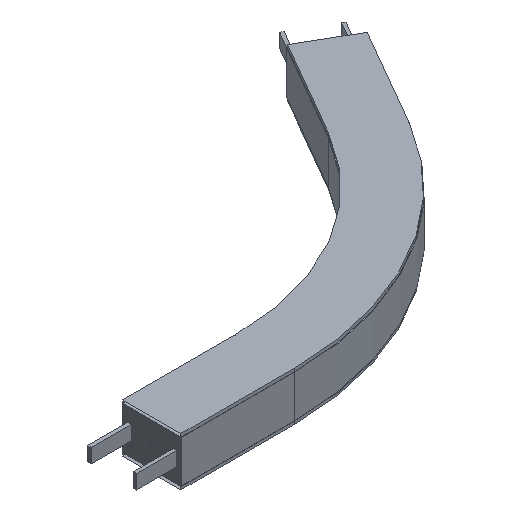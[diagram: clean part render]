
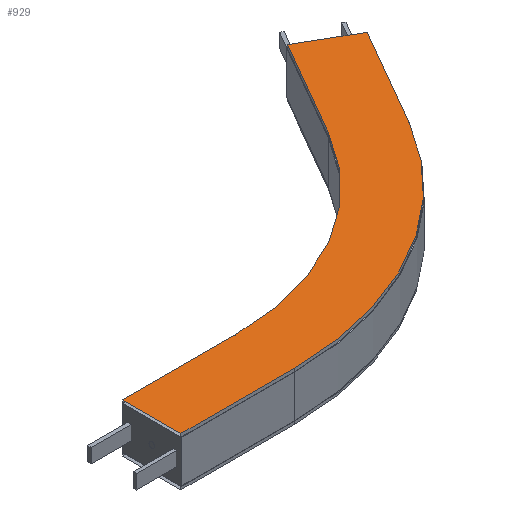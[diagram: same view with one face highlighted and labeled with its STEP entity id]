
A CAD part, isometric view. The second image highlights one B-rep face of the part: STEP entity #929.
In plain terms, the highlighted planar face has unit normal (0, 0, -1).
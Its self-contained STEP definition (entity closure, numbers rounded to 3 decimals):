
#61=CIRCLE('',#1011,448.5);
#62=CIRCLE('',#1013,551.5);
#119=FACE_OUTER_BOUND('',#171,.T.);
#171=EDGE_LOOP('',(#794,#795,#796,#797,#798,#799,#800,#801));
#253=LINE('',#1463,#363);
#255=LINE('',#1469,#365);
#262=LINE('',#1490,#372);
#267=LINE('',#1499,#377);
#268=LINE('',#1501,#378);
#269=LINE('',#1502,#379);
#363=VECTOR('',#1198,10.);
#365=VECTOR('',#1202,10.);
#372=VECTOR('',#1223,10.);
#377=VECTOR('',#1232,10.);
#378=VECTOR('',#1235,10.);
#379=VECTOR('',#1236,10.);
#453=VERTEX_POINT('',#1457);
#455=VERTEX_POINT('',#1461);
#456=VERTEX_POINT('',#1465);
#458=VERTEX_POINT('',#1468);
#461=VERTEX_POINT('',#1475);
#462=VERTEX_POINT('',#1480);
#464=VERTEX_POINT('',#1486);
#467=VERTEX_POINT('',#1497);
#565=EDGE_CURVE('',#453,#455,#253,.T.);
#567=EDGE_CURVE('',#456,#458,#255,.T.);
#572=EDGE_CURVE('',#461,#453,#61,.T.);
#574=EDGE_CURVE('',#462,#456,#62,.T.);
#578=EDGE_CURVE('',#464,#461,#262,.T.);
#583=EDGE_CURVE('',#467,#462,#267,.T.);
#584=EDGE_CURVE('',#467,#464,#268,.T.);
#585=EDGE_CURVE('',#455,#458,#269,.T.);
#794=ORIENTED_EDGE('',*,*,#584,.T.);
#795=ORIENTED_EDGE('',*,*,#578,.T.);
#796=ORIENTED_EDGE('',*,*,#572,.T.);
#797=ORIENTED_EDGE('',*,*,#565,.T.);
#798=ORIENTED_EDGE('',*,*,#585,.T.);
#799=ORIENTED_EDGE('',*,*,#567,.F.);
#800=ORIENTED_EDGE('',*,*,#574,.F.);
#801=ORIENTED_EDGE('',*,*,#583,.F.);
#879=PLANE('',#1018);
#929=ADVANCED_FACE('',(#119),#879,.F.);
#1011=AXIS2_PLACEMENT_3D('',#1478,#1210,#1211);
#1013=AXIS2_PLACEMENT_3D('',#1483,#1215,#1216);
#1018=AXIS2_PLACEMENT_3D('',#1500,#1233,#1234);
#1198=DIRECTION('',(0.5,0.866,0.));
#1202=DIRECTION('',(0.5,0.866,0.));
#1210=DIRECTION('center_axis',(0.,0.,
1.));
#1211=DIRECTION('ref_axis',(0.,-1.,0.));
#1215=DIRECTION('center_axis',(0.,0.,
1.));
#1216=DIRECTION('ref_axis',(0.,-1.,0.));
#1223=DIRECTION('',(1.,0.,0.));
#1232=DIRECTION('',(1.,0.,0.));
#1233=DIRECTION('center_axis',(0.,0.,1.));
#1234=DIRECTION('ref_axis',(0.,-1.,0.));
#1235=DIRECTION('',(0.,1.,0.));
#1236=DIRECTION('',(0.866,-0.5,0.));
#1457=CARTESIAN_POINT('',(588.412,275.75,43.));
#1461=CARTESIAN_POINT('',(688.412,448.955,43.));
#1463=CARTESIAN_POINT('',(588.412,275.75,43.));
#1465=CARTESIAN_POINT('',(677.613,224.25,43.));
#1468=CARTESIAN_POINT('',(777.613,397.455,43.));
#1469=CARTESIAN_POINT('',(677.613,224.25,43.));
#1475=CARTESIAN_POINT('',(200.,51.5,43.));
#1478=CARTESIAN_POINT('Origin',(200.,500.,43.));
#1480=CARTESIAN_POINT('',(200.,-51.5,43.));
#1483=CARTESIAN_POINT('Origin',(200.,500.,43.));
#1486=CARTESIAN_POINT('',(0.,51.5,43.));
#1490=CARTESIAN_POINT('',(0.,51.5,43.));
#1497=CARTESIAN_POINT('',(0.,-51.5,43.));
#1499=CARTESIAN_POINT('',(0.,-51.5,43.));
#1500=CARTESIAN_POINT('Origin',(0.,51.5,43.));
#1501=CARTESIAN_POINT('',(0.,-51.5,43.));
#1502=CARTESIAN_POINT('',(777.613,397.455,43.));
